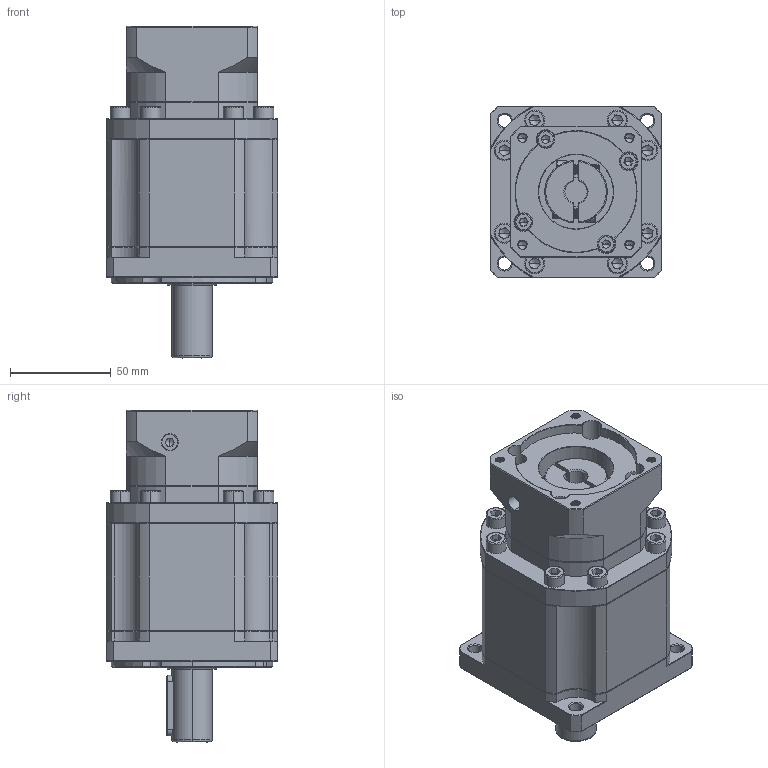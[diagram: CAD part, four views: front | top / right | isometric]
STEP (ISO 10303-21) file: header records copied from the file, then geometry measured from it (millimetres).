
FILE_DESCRIPTION (( 'STEP AP214' ), '1' );
FILE_NAME ('ZB090-D20-L3-P2-11-60-75-M5.step', '2023-08-18T13:34:20', ( '' ), ( '' ), 'SwSTEP 2.0', 'SolidWorks 2016', '' );
FILE_SCHEMA (( 'AUTOMOTIVE_DESIGN' ));
Length unit declared in the file: millimetre
Products named in the file (1): ZB090-D20-L3-P2-11-60-75-M5
Bounding box: 85 x 85 x 164.5 mm (x, y, z)
Volume: 660617.5 mm3; surface area: 82455.1 mm2
Topology: 6 solids, 6 shells, 2369 faces, 6306 edges, 4029 vertices
Faces by surface type: plane 1185, bspline 426, cylinder 409, cone 327, torus 22
Entity records: 126384 total; most frequent: CARTESIAN_POINT 44740, ORIENTED_EDGE 12520, DIRECTION 9995, EDGE_CURVE 6260, VERTEX_POINT 4029, VECTOR 3953, LINE 3953, AXIS2_PLACEMENT_3D 3021
